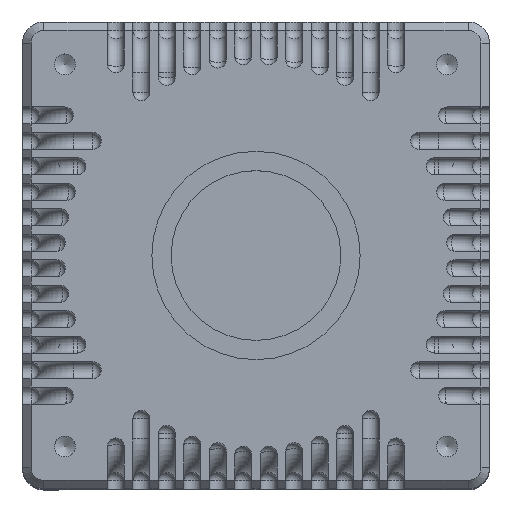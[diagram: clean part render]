
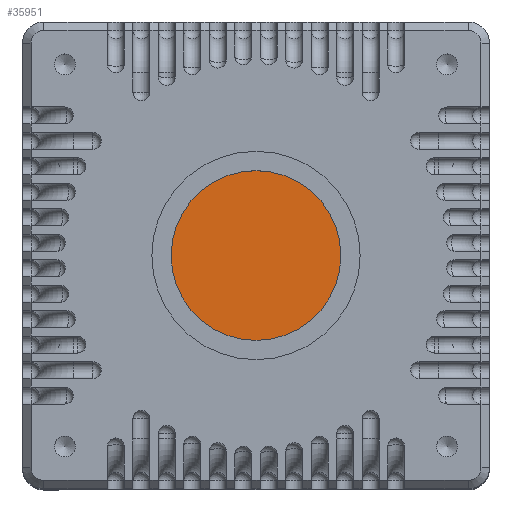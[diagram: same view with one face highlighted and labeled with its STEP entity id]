
A CAD part, top view. The second image highlights one B-rep face of the part: STEP entity #35951.
In plain terms, the highlighted planar face has unit normal (0, 0, 1) as drawn and (0, 1, 0) by its records, which use the part's own axes.
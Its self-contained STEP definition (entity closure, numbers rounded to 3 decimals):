
#9839=FACE_OUTER_BOUND('',#12116,.T.);
#12116=EDGE_LOOP('',(#32085));
#13747=CIRCLE('',#39758,11.);
#17032=VERTEX_POINT('',#96741);
#22054=EDGE_CURVE('',#17032,#17032,#13747,.T.);
#32085=ORIENTED_EDGE('',*,*,#22054,.T.);
#33084=PLANE('',#39760);
#35951=ADVANCED_FACE('',(#9839),#33084,.T.);
#39758=AXIS2_PLACEMENT_3D('',#96742,#49640,#49641);
#39760=AXIS2_PLACEMENT_3D('',#96746,#49645,#49646);
#49640=DIRECTION('center_axis',(0.,1.,0.));
#49641=DIRECTION('ref_axis',(1.,0.,0.));
#49645=DIRECTION('center_axis',(0.,1.,0.));
#49646=DIRECTION('ref_axis',(0.,0.,1.));
#96741=CARTESIAN_POINT('',(-11.,1.,0.));
#96742=CARTESIAN_POINT('Origin',(0.,1.,0.));
#96746=CARTESIAN_POINT('Origin',(0.,1.,0.));
